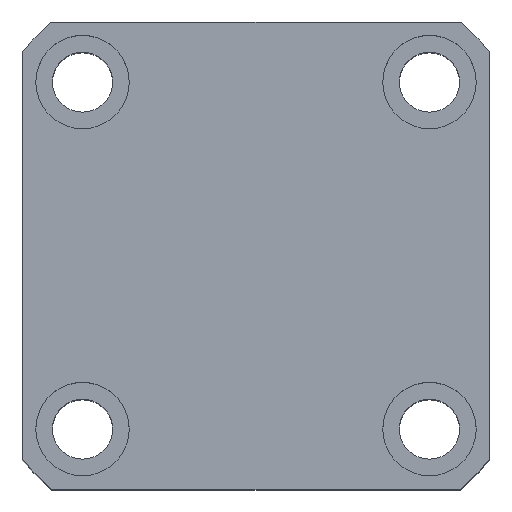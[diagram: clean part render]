
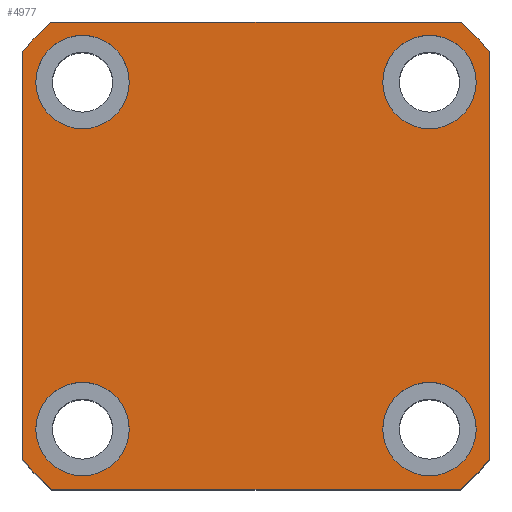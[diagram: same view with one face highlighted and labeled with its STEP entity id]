
A CAD part, top view. The second image highlights one B-rep face of the part: STEP entity #4977.
In plain terms, the highlighted planar face has unit normal (0, 0, 1).
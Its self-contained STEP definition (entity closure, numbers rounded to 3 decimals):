
#469=LINE('',#15036,#1254);
#475=LINE('',#15264,#1260);
#479=LINE('',#15273,#1264);
#483=LINE('',#15282,#1268);
#1254=VECTOR('',#11123,1.);
#1260=VECTOR('',#11253,1.);
#1264=VECTOR('',#11259,1.);
#1268=VECTOR('',#11265,1.);
#4241=PLANE('',#10723);
#4977=ADVANCED_FACE('',(#5548,#5549,#5550,#5551,#5552),#4241,.T.);
#5430=CIRCLE('',#10704,7.);
#5432=CIRCLE('',#10707,7.);
#5434=CIRCLE('',#10710,7.);
#5436=CIRCLE('',#10713,7.);
#5438=CIRCLE('',#10719,46.5);
#5439=CIRCLE('',#10720,46.5);
#5440=CIRCLE('',#10721,46.5);
#5441=CIRCLE('',#10722,46.5);
#5548=FACE_BOUND('',#5747,.T.);
#5549=FACE_BOUND('',#5748,.T.);
#5550=FACE_BOUND('',#5749,.T.);
#5551=FACE_BOUND('',#5750,.T.);
#5552=FACE_BOUND('',#5751,.T.);
#5747=EDGE_LOOP('',(#6374));
#5748=EDGE_LOOP('',(#6375));
#5749=EDGE_LOOP('',(#6376));
#5750=EDGE_LOOP('',(#6377));
#5751=EDGE_LOOP('',(#6378,#6379,#6380,#6381,#6382,#6383,#6384,#6385));
#6374=ORIENTED_EDGE('',*,*,#9289,.F.);
#6375=ORIENTED_EDGE('',*,*,#9291,.F.);
#6376=ORIENTED_EDGE('',*,*,#9293,.F.);
#6377=ORIENTED_EDGE('',*,*,#9295,.F.);
#6378=ORIENTED_EDGE('',*,*,#9298,.T.);
#6379=ORIENTED_EDGE('',*,*,#9309,.T.);
#6380=ORIENTED_EDGE('',*,*,#9302,.T.);
#6381=ORIENTED_EDGE('',*,*,#9310,.T.);
#6382=ORIENTED_EDGE('',*,*,#9250,.T.);
#6383=ORIENTED_EDGE('',*,*,#9311,.T.);
#6384=ORIENTED_EDGE('',*,*,#9306,.T.);
#6385=ORIENTED_EDGE('',*,*,#9312,.T.);
#8473=VERTEX_POINT('',#15034);
#8475=VERTEX_POINT('',#15037);
#8512=VERTEX_POINT('',#15242);
#8514=VERTEX_POINT('',#15247);
#8516=VERTEX_POINT('',#15252);
#8518=VERTEX_POINT('',#15257);
#8520=VERTEX_POINT('',#15262);
#8522=VERTEX_POINT('',#15265);
#8524=VERTEX_POINT('',#15271);
#8526=VERTEX_POINT('',#15274);
#8528=VERTEX_POINT('',#15280);
#8530=VERTEX_POINT('',#15283);
#9250=EDGE_CURVE('',#8475,#8473,#469,.T.);
#9289=EDGE_CURVE('',#8512,#8512,#5430,.T.);
#9291=EDGE_CURVE('',#8514,#8514,#5432,.T.);
#9293=EDGE_CURVE('',#8516,#8516,#5434,.T.);
#9295=EDGE_CURVE('',#8518,#8518,#5436,.T.);
#9298=EDGE_CURVE('',#8522,#8520,#475,.T.);
#9302=EDGE_CURVE('',#8526,#8524,#479,.T.);
#9306=EDGE_CURVE('',#8530,#8528,#483,.T.);
#9309=EDGE_CURVE('',#8520,#8526,#5438,.T.);
#9310=EDGE_CURVE('',#8524,#8475,#5439,.T.);
#9311=EDGE_CURVE('',#8473,#8530,#5440,.T.);
#9312=EDGE_CURVE('',#8528,#8522,#5441,.T.);
#10704=AXIS2_PLACEMENT_3D('',#15241,#11228,#11229);
#10707=AXIS2_PLACEMENT_3D('',#15246,#11234,#11235);
#10710=AXIS2_PLACEMENT_3D('',#15251,#11240,#11241);
#10713=AXIS2_PLACEMENT_3D('',#15256,#11246,#11247);
#10719=AXIS2_PLACEMENT_3D('',#15288,#11270,#11271);
#10720=AXIS2_PLACEMENT_3D('',#15289,#11272,#11273);
#10721=AXIS2_PLACEMENT_3D('',#15290,#11274,#11275);
#10722=AXIS2_PLACEMENT_3D('',#15291,#11276,#11277);
#10723=AXIS2_PLACEMENT_3D('',#15292,#11278,#11279);
#11123=DIRECTION('',(0.,-1.,0.));
#11228=DIRECTION('',(0.,0.,1.));
#11229=DIRECTION('',(1.,0.,0.));
#11234=DIRECTION('',(0.,0.,1.));
#11235=DIRECTION('',(1.,0.,0.));
#11240=DIRECTION('',(0.,0.,1.));
#11241=DIRECTION('',(1.,0.,0.));
#11246=DIRECTION('',(0.,0.,1.));
#11247=DIRECTION('',(1.,0.,0.));
#11253=DIRECTION('',(0.,1.,0.));
#11259=DIRECTION('',(-1.,0.,0.));
#11265=DIRECTION('',(1.,0.,0.));
#11270=DIRECTION('',(0.,0.,1.));
#11271=DIRECTION('',(1.,0.,0.));
#11272=DIRECTION('',(0.,0.,1.));
#11273=DIRECTION('',(1.,0.,0.));
#11274=DIRECTION('',(0.,0.,1.));
#11275=DIRECTION('',(1.,0.,0.));
#11276=DIRECTION('',(0.,0.,1.));
#11277=DIRECTION('',(1.,0.,0.));
#11278=DIRECTION('',(0.,0.,1.));
#11279=DIRECTION('',(-1.,0.,0.));
#15034=CARTESIAN_POINT('',(-69.019,-31.141,85.542));
#15036=CARTESIAN_POINT('',(-69.019,34.474,85.542));
#15037=CARTESIAN_POINT('',(-69.019,30.088,85.542));
#15241=CARTESIAN_POINT('',(-60.019,-26.526,85.542));
#15242=CARTESIAN_POINT('',(-53.019,-26.526,85.542));
#15246=CARTESIAN_POINT('',(-8.019,-26.526,85.542));
#15247=CARTESIAN_POINT('',(-1.019,-26.526,85.542));
#15251=CARTESIAN_POINT('',(-8.019,25.474,85.542));
#15252=CARTESIAN_POINT('',(-1.019,25.474,85.542));
#15256=CARTESIAN_POINT('',(-60.019,25.474,85.542));
#15257=CARTESIAN_POINT('',(-53.019,25.474,85.542));
#15262=CARTESIAN_POINT('',(0.981,30.088,85.542));
#15264=CARTESIAN_POINT('',(0.981,34.474,85.542));
#15265=CARTESIAN_POINT('',(0.981,-31.141,85.542));
#15271=CARTESIAN_POINT('',(-64.633,34.474,85.542));
#15273=CARTESIAN_POINT('',(-69.019,34.474,85.542));
#15274=CARTESIAN_POINT('',(-3.404,34.474,85.542));
#15280=CARTESIAN_POINT('',(-3.404,-35.526,85.542));
#15282=CARTESIAN_POINT('',(-69.019,-35.526,85.542));
#15283=CARTESIAN_POINT('',(-64.633,-35.526,85.542));
#15288=CARTESIAN_POINT('',(-34.019,-0.526,85.542));
#15289=CARTESIAN_POINT('',(-34.019,-0.526,85.542));
#15290=CARTESIAN_POINT('',(-34.019,-0.526,85.542));
#15291=CARTESIAN_POINT('',(-34.019,-0.526,85.542));
#15292=CARTESIAN_POINT('',(-34.019,-0.526,85.542));
